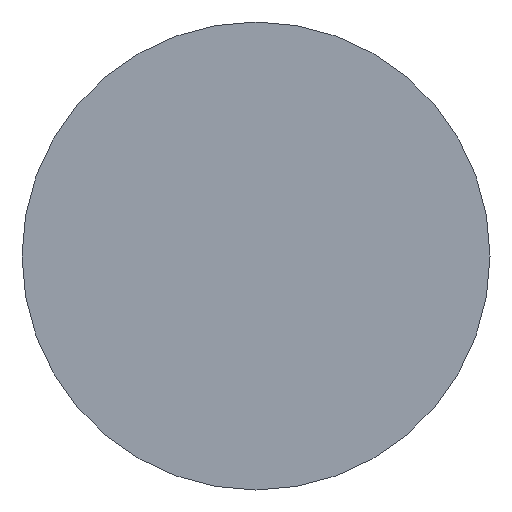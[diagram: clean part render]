
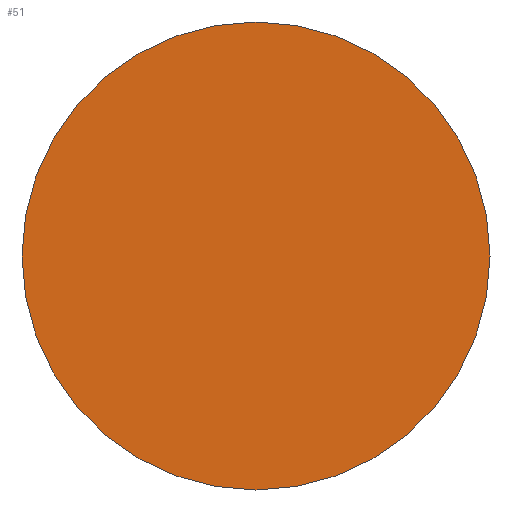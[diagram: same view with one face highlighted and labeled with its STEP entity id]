
A CAD part, left-side view. The second image highlights one B-rep face of the part: STEP entity #51.
In plain terms, the highlighted planar face has unit normal (-1, 0, 0).
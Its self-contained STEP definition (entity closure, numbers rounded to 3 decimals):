
#18 = VERTEX_POINT ( 'NONE', #210 ) ;
#19 = AXIS2_PLACEMENT_3D ( 'NONE', #80, #244, #103 ) ;
#38 = DIRECTION ( 'NONE',  ( 1., 0., 0. ) ) ;
#51 = ADVANCED_FACE ( 'NONE', ( #247 ), #74, .F. ) ;
#62 = CARTESIAN_POINT ( 'NONE',  ( 0., 0., 1.4 ) ) ;
#63 = DIRECTION ( 'NONE',  ( -1., 0., 0. ) ) ;
#74 = PLANE ( 'NONE',  #167 ) ;
#80 = CARTESIAN_POINT ( 'NONE',  ( 0., 0., 0. ) ) ;
#96 = CARTESIAN_POINT ( 'NONE',  ( 0., 0., 0. ) ) ;
#103 = DIRECTION ( 'NONE',  ( 0., 0., 1. ) ) ;
#139 = CIRCLE ( 'NONE', #145, 1.4 ) ;
#144 = CIRCLE ( 'NONE', #19, 1.4 ) ;
#145 = AXIS2_PLACEMENT_3D ( 'NONE', #202, #63, #227 ) ;
#162 = DIRECTION ( 'NONE',  ( 0., 0., -1. ) ) ;
#167 = AXIS2_PLACEMENT_3D ( 'NONE', #96, #38, #162 ) ;
#169 = EDGE_CURVE ( 'NONE', #251, #18, #144, .T. ) ;
#175 = ORIENTED_EDGE ( 'NONE', *, *, #291, .T. ) ;
#187 = EDGE_LOOP ( 'NONE', ( #233, #175 ) ) ;
#202 = CARTESIAN_POINT ( 'NONE',  ( 0., 0., 0. ) ) ;
#210 = CARTESIAN_POINT ( 'NONE',  ( 0., 0., -1.4 ) ) ;
#227 = DIRECTION ( 'NONE',  ( 0., 0., 1. ) ) ;
#233 = ORIENTED_EDGE ( 'NONE', *, *, #169, .T. ) ;
#244 = DIRECTION ( 'NONE',  ( -1., 0., 0. ) ) ;
#247 = FACE_OUTER_BOUND ( 'NONE', #187, .T. ) ;
#251 = VERTEX_POINT ( 'NONE', #62 ) ;
#291 = EDGE_CURVE ( 'NONE', #18, #251, #139, .T. ) ;
